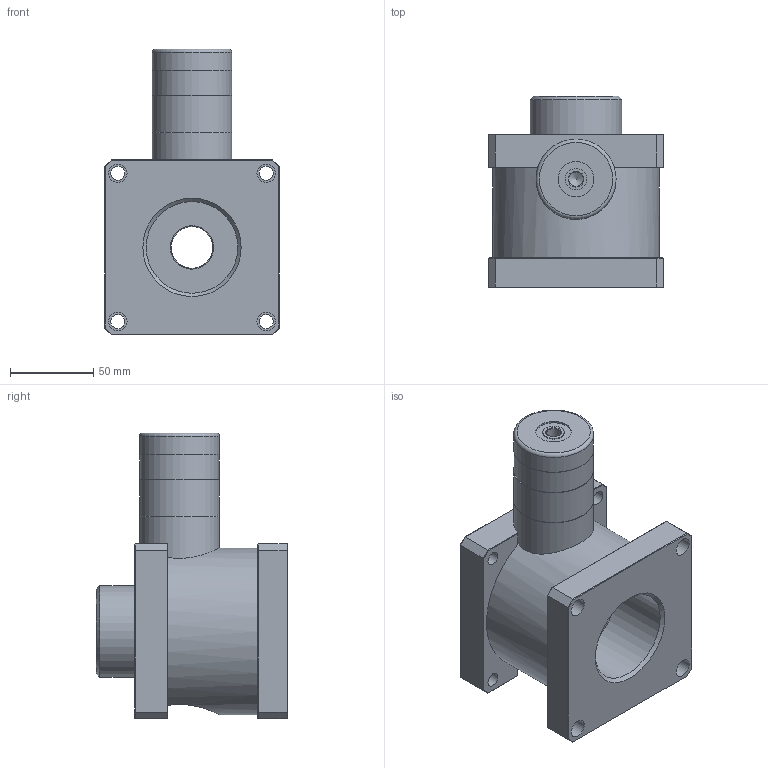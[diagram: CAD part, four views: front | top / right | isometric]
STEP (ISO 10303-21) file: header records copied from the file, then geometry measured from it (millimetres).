
FILE_DESCRIPTION(('STEP AP242'),'1');
FILE_NAME('A.6025_S + MA.7100 Feststellpatrone mit Zylinderaufnahme.stp','2026-07-01T13:22:03',(' '),(' '),'Spatial InterOp 3D',' ',' ');
FILE_SCHEMA(('AP242_MANAGED_MODEL_BASED_3D_ENGINEERING_MIM_LF {1 0 10303 442 1 1 4}'));
Length unit declared in the file: millimetre
Products named in the file (3): A.6025_S + MA.7100 Feststellpatrone mit Zylinderaufnahme; MA.7100 (M.7100); A.6025_S Feststellpatrone
Assembly tree (2 placements, depth 2):
  A.6025_S + MA.7100 Feststellpatrone mit Zylinderaufnahme
    MA.7100 (M.7100)
    A.6025_S Feststellpatrone
Bounding box: 105 x 115 x 171.5 mm (x, y, z)
Volume: 851198.4 mm3; surface area: 115070.5 mm2
Topology: 2 solids, 2 shells, 103 faces, 242 edges, 150 vertices
Faces by surface type: plane 69, cylinder 25, cone 7, torus 2
Full cylindrical faces by diameter (mm): 8.5 x4, 8.566 x2, 11 x4, 12.8 x1, 21.3 x1, 25 x2, 26 x1, 27 x2, 47.5 x1, 48 x3, 48.111 x1, 55 x2, 100 x1
Entity records: 4201 total; most frequent: CARTESIAN_POINT 924, DIRECTION 458, ORIENTED_EDGE 390, EDGE_CURVE 195, EDGE_LOOP 168, AXIS2_PLACEMENT_3D 163, VERTEX_POINT 138, LINE 132
